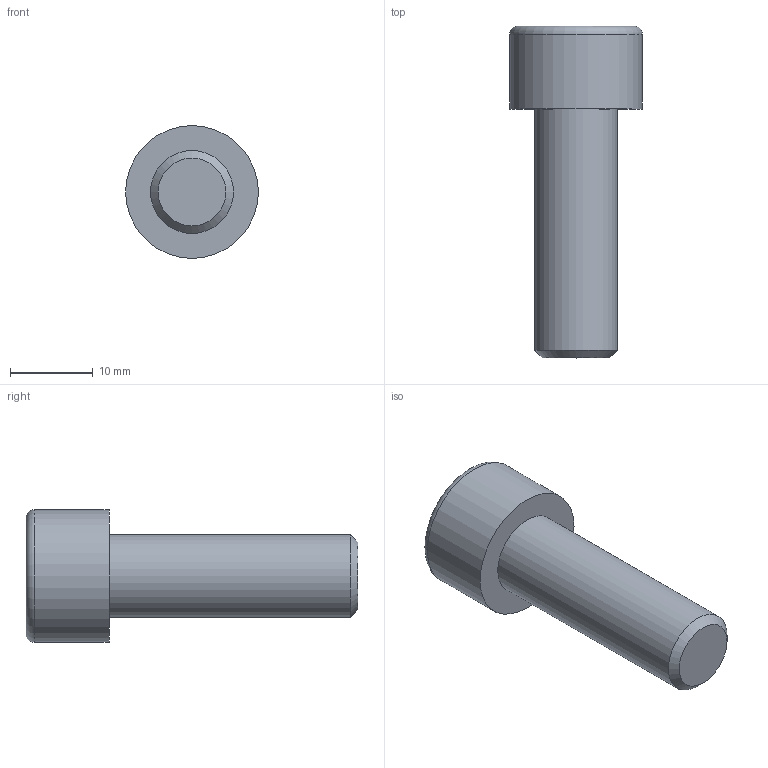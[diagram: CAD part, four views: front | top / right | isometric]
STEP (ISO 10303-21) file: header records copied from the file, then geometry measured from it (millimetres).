
FILE_DESCRIPTION(/* description */ (''),/* implementation_level */ '2;1');
FILE_NAME(/* name */ 'C:\Users\D\Documents\Inventor\各種小物\JIS\JIS B 1176 六角穴付きボルト\M10x30.stp',/* time_stamp */ '2022-05-09T18:52:16+09:00',/* author */ ('D'),/* organization */ (''),/* preprocessor_version */ 'ST-DEVELOPER v18',/* originating_system */ 'Autodesk Inventor 2020',/* authorisation */ '');
FILE_SCHEMA (('AUTOMOTIVE_DESIGN { 1 0 10303 214 3 1 1 }'));
Length unit declared in the file: millimetre
Products named in the file (1): M1.6x2.5
Bounding box: 16 x 40 x 16 mm (x, y, z)
Volume: 4008.8 mm3; surface area: 1960.8 mm2
Topology: 1 solids, 1 shells, 14 faces, 33 edges, 22 vertices
Faces by surface type: plane 9, cone 2, cylinder 2, torus 1
Full cylindrical faces by diameter (mm): 10 x1, 16 x1
Entity records: 435 total; most frequent: CARTESIAN_POINT 83, ORIENTED_EDGE 64, DIRECTION 64, EDGE_CURVE 32, AXIS2_PLACEMENT_3D 24, VERTEX_POINT 22, EDGE_LOOP 16, LINE 16
